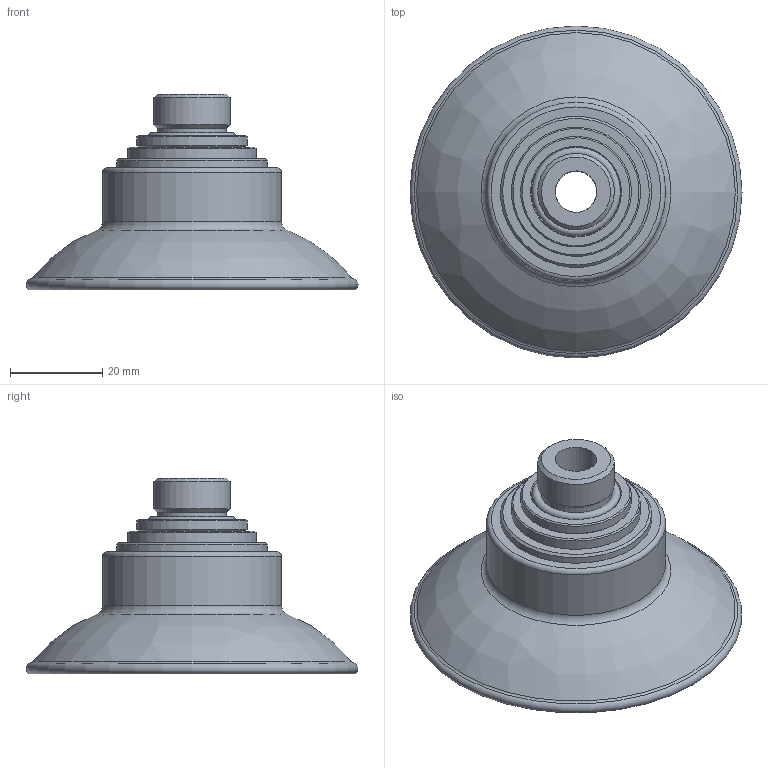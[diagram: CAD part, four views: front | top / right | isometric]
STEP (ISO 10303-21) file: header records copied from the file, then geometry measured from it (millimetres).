
FILE_DESCRIPTION( ( 'Unknown' ), '1' );
FILE_NAME( 'D:/弥龋覆(冠固急)/Smart Cup/寇何侩-唱荤魂TYPE/FCF70-38M.stp', 'Unknown', ( 'Unknown' ), ( 'Unknown' ), 'PSStep 10.0', 'Unknown', ' ' );
FILE_SCHEMA( ( 'AUTOMOTIVE_DESIGN { 1 0 10303 214 1 1 1 1 }' ) );
Length unit declared in the file: millimetre
Products named in the file (5): Assem1; FCF70; VDF-FCF-12F; VDF-FCF-12M38M; 38M-Oring
Bounding box: 72 x 72 x 42.5 mm (x, y, z)
Volume: 58987 mm3; surface area: 45040.2 mm2
Topology: 8 solids, 8 shells, 142 faces, 246 edges, 142 vertices
Faces by surface type: cylinder 44, cone 38, plane 38, torus 16, bspline 6
Full cylindrical faces by diameter (mm): 9 x2, 9.5 x2, 15 x2, 16 x4, 16.6 x2, 16.8 x2, 18.631 x2, 19 x2, 19.3 x2, 21 x2, 24 x6, 28 x2, 30.8 x2, 31.8 x2, 32.8 x6, 38.8 x2, 56.9 x2
Entity records: 2149 total; most frequent: CARTESIAN_POINT 297, DIRECTION 286, AXIS2_PLACEMENT_3D 143, EDGE_LOOP 140, ORIENTED_EDGE 140, FACE_OUTER_BOUND 102, STYLED_ITEM 71, PRESENTATION_STYLE_ASSIGNMENT 71
